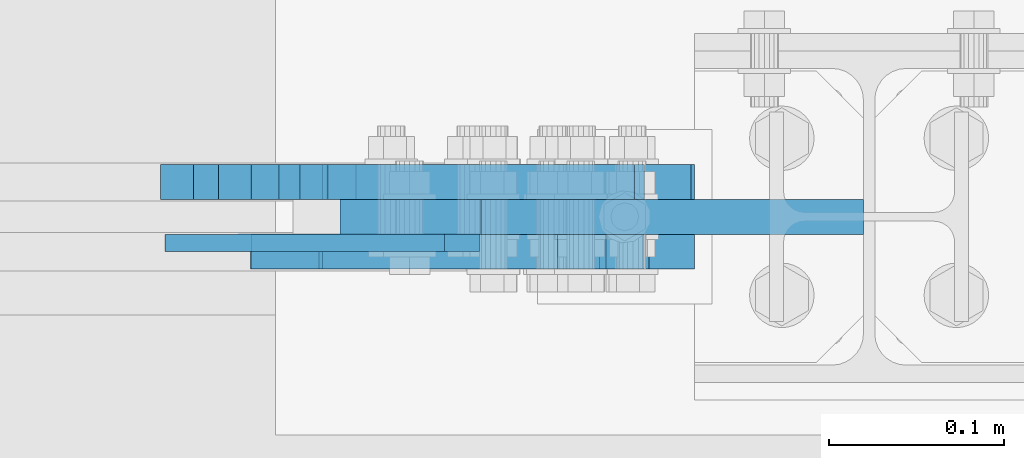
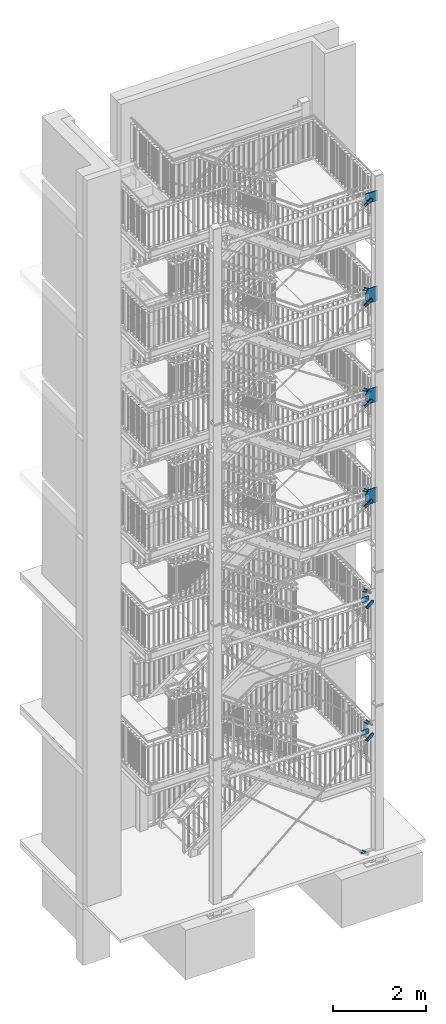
# One storey, part 200 of 831: 18 plates, 55 openings.
"""IFC2X3 building model written with IfcOpenShell, lengths in millimetres."""

from ifc_helpers import new_model, entity, si_unit, converted_unit, frame, frame_2d, origin, origin_with_axes, place, context, project, spatial, polyline, circle, outline, extrude, material, layer, layer_set, element, save


model = new_model("IFC2X3")

# Units and contexts
model_context = context("Model", 3, precision=1e-09, world=origin_with_axes())
ifc_project = project(units=[si_unit("LENGTHUNIT", "METRE", prefix="MILLI"), si_unit("AREAUNIT", "SQUARE_METRE"), si_unit("VOLUMEUNIT", "CUBIC_METRE"), converted_unit("PLANEANGLEUNIT", "DEGREE", entity("IfcPlaneAngleMeasure", 0.01745329), si_unit("PLANEANGLEUNIT", "RADIAN"), dimensions=[0, 0, 0, 0, 0, 0, 0])], contexts=[model_context])

# Site, building, storey
site_placement = place(None, origin_with_axes())
site = spatial("IfcSite", under=ifc_project, at=site_placement, Name="Site", CompositionType="ELEMENT")
building_placement = place(site_placement, origin_with_axes())
building = spatial("IfcBuilding", under=site, at=building_placement, Name="Struktur 1", CompositionType="ELEMENT")
storey_placement = place(building_placement, origin_with_axes())
storey = spatial("IfcBuildingStorey", under=building, at=storey_placement, Name="Default Storey", CompositionType="ELEMENT", Elevation=0.0)

# Plate, openings
ifc_material = material(Name="S235JR")
ifc_layer_1 = layer(ifc_material, 20.0)
ifc_layer_set_1 = layer_set([ifc_layer_1], Name="S235JR")
plate_1_placement = place(None, frame((8863.463402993, 4376.736971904, 9810.428402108), z_axis=(0.0, 1.0, 0.0), x_axis=(0.0, 0.0, -1.0)))
plate_1 = element("IfcPlate", 1, at=plate_1_placement, inside=storey, material=ifc_layer_set_1, Name="-", ObjectType="-", context=model_context, shape_type="SweptSolid", body=[
    extrude(outline(polyline([(0.0, 0.0), (386.856811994, 0.0), (386.856811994, 219.202103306), (263.428405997, 300.0), (123.428405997, 300.0), (0.0, 219.202103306), (0.0, 0.0)])), origin_with_axes(), (0.0, 0.0, -1.0), 20.0),
])
opening_1_placement = place(plate_1_placement, frame((193.428405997, 260.0, 0.5), z_axis=(0.0, 0.0, -1.0), x_axis=(0.0, -1.0, 0.0)))
element("IfcOpeningElement", 2, at=opening_1_placement, cuts=plate_1, ObjectType="Opening", context=model_context, shape_type="SweptSolid", body=[
    extrude(circle(Radius=9.001, at=frame_2d((0.0, 30.0), x_axis=(1.0, 0.0))), origin(), (0.0, 0.0, 1.0), 21.0),
])
opening_2_placement = place(plate_1_placement, frame((193.428405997, 260.0, 0.5), z_axis=(0.0, 0.0, -1.0), x_axis=(0.0, -1.0, 0.0)))
element("IfcOpeningElement", 3, at=opening_2_placement, cuts=plate_1, ObjectType="Opening", context=model_context, shape_type="SweptSolid", body=[
    extrude(circle(Radius=9.001, at=frame_2d((0.0, -30.0), x_axis=(1.0, 0.0))), origin(), (0.0, 0.0, 1.0), 21.0),
])
opening_3_placement = place(plate_1_placement, frame((57.434224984, 204.237470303, 0.5), z_axis=(0.0, 0.0, 1.0), x_axis=(1.0, 0.0, 0.0)))
element("IfcOpeningElement", 4, at=opening_3_placement, cuts=plate_1, ObjectType="Opening", context=model_context, shape_type="SweptSolid", body=[
    extrude(circle(Radius=9.001, at=frame_2d((-4.93237078, 7.529257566), x_axis=(1.0, 0.0))), origin(), (0.0, 0.0, -1.0), 21.0),
])
opening_4_placement = place(plate_1_placement, frame((90.313043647, 154.047996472, 0.5), z_axis=(0.0, 0.0, 1.0), x_axis=(1.0, 0.0, 0.0)))
element("IfcOpeningElement", 5, at=opening_4_placement, cuts=plate_1, ObjectType="Opening", context=model_context, shape_type="SweptSolid", body=[
    extrude(circle(Radius=9.001, at=frame_2d((-4.93237078, 7.529257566), x_axis=(1.0, 0.0))), origin(), (0.0, 0.0, -1.0), 21.0),
])
opening_5_placement = place(plate_1_placement, frame((318.119504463, 186.723899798, 0.5), z_axis=(0.0, 0.0, -1.0), x_axis=(0.548720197, 0.836006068, 0.0)))
element("IfcOpeningElement", 6, at=opening_5_placement, cuts=plate_1, ObjectType="Opening", context=model_context, shape_type="SweptSolid", body=[
    extrude(circle(Radius=9.001, at=frame_2d((30.0, 0.0), x_axis=(1.0, 0.0))), origin(), (0.0, 0.0, 1.0), 21.0),
])
opening_6_placement = place(plate_1_placement, frame((318.119504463, 186.723899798, 0.5), z_axis=(0.0, 0.0, -1.0), x_axis=(0.548720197, 0.836006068, 0.0)))
element("IfcOpeningElement", 7, at=opening_6_placement, cuts=plate_1, ObjectType="Opening", context=model_context, shape_type="SweptSolid", body=[
    extrude(circle(Radius=9.001, at=frame_2d((-30.0, 0.0), x_axis=(1.0, 0.0))), origin(), (0.0, 0.0, 1.0), 21.0),
])

plate_2_placement = place(None, frame((8863.463402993, 4376.736971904, 12437.428402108), z_axis=(0.0, 1.0, 0.0), x_axis=(0.0, 0.0, -1.0)))
plate_2 = element("IfcPlate", 8, at=plate_2_placement, inside=storey, material=ifc_layer_set_1, Name="-", ObjectType="-", context=model_context, shape_type="SweptSolid", body=[
    extrude(outline(polyline([(0.0, 0.0), (386.856811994, 0.0), (386.856811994, 219.202103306), (263.428405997, 300.0), (123.428405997, 300.0), (0.0, 219.202103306), (0.0, 0.0)])), origin_with_axes(), (0.0, 0.0, -1.0), 20.0),
])
opening_7_placement = place(plate_2_placement, frame((193.428405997, 260.000000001, 0.5), z_axis=(0.0, 0.0, -1.0), x_axis=(0.0, -1.0, 0.0)))
element("IfcOpeningElement", 9, at=opening_7_placement, cuts=plate_2, ObjectType="Opening", context=model_context, shape_type="SweptSolid", body=[
    extrude(circle(Radius=9.001, at=frame_2d((0.0, 30.0), x_axis=(1.0, 0.0))), origin(), (0.0, 0.0, 1.0), 21.0),
])
opening_8_placement = place(plate_2_placement, frame((193.428405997, 260.000000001, 0.5), z_axis=(0.0, 0.0, -1.0), x_axis=(0.0, -1.0, 0.0)))
element("IfcOpeningElement", 10, at=opening_8_placement, cuts=plate_2, ObjectType="Opening", context=model_context, shape_type="SweptSolid", body=[
    extrude(circle(Radius=9.001, at=frame_2d((0.0, -30.0), x_axis=(1.0, 0.0))), origin(), (0.0, 0.0, 1.0), 21.0),
])
opening_9_placement = place(plate_2_placement, frame((317.953682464, 186.832359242, 0.5), z_axis=(0.0, 0.0, -1.0), x_axis=(0.547991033, 0.836484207, 0.0)))
element("IfcOpeningElement", 11, at=opening_9_placement, cuts=plate_2, ObjectType="Opening", context=model_context, shape_type="SweptSolid", body=[
    extrude(circle(Radius=9.001, at=frame_2d((30.0, 0.0), x_axis=(1.0, 0.0))), origin(), (0.0, 0.0, 1.0), 21.0),
])
opening_10_placement = place(plate_2_placement, frame((317.953682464, 186.832359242, 0.5), z_axis=(0.0, 0.0, -1.0), x_axis=(0.547991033, 0.836484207, 0.0)))
element("IfcOpeningElement", 12, at=opening_10_placement, cuts=plate_2, ObjectType="Opening", context=model_context, shape_type="SweptSolid", body=[
    extrude(circle(Radius=9.001, at=frame_2d((-30.0, 0.0), x_axis=(1.0, 0.0))), origin(), (0.0, 0.0, 1.0), 21.0),
])
opening_11_placement = place(plate_2_placement, frame((57.191453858, 204.078340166, 0.5), z_axis=(0.0, 0.0, 1.0), x_axis=(1.0, 0.0, 0.0)))
element("IfcOpeningElement", 13, at=opening_11_placement, cuts=plate_2, ObjectType="Opening", context=model_context, shape_type="SweptSolid", body=[
    extrude(circle(Radius=9.001, at=frame_2d((-4.942962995, 7.522308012), x_axis=(1.0, 0.0))), origin(), (0.0, 0.0, -1.0), 21.0),
])
opening_12_placement = place(plate_2_placement, frame((90.140879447, 153.935191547, 0.5), z_axis=(0.0, 0.0, 1.0), x_axis=(1.0, 0.0, 0.0)))
element("IfcOpeningElement", 14, at=opening_12_placement, cuts=plate_2, ObjectType="Opening", context=model_context, shape_type="SweptSolid", body=[
    extrude(circle(Radius=9.001, at=frame_2d((-4.942962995, 7.522308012), x_axis=(1.0, 0.0))), origin(), (0.0, 0.0, -1.0), 21.0),
])

plate_3_placement = place(None, frame((8863.463402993, 4376.736971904, 15072.428402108), z_axis=(0.0, 1.0, 0.0), x_axis=(0.0, 0.0, -1.0)))
plate_3 = element("IfcPlate", 15, at=plate_3_placement, inside=storey, material=ifc_layer_set_1, Name="-", ObjectType="-", context=model_context, shape_type="SweptSolid", body=[
    extrude(outline(polyline([(0.0, 0.0), (386.856811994, 0.0), (386.856811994, 219.202103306), (263.428405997, 300.0), (123.428405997, 300.0), (0.0, 219.202103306), (0.0, 0.0)])), origin_with_axes(), (0.0, 0.0, -1.0), 20.0),
])
opening_13_placement = place(plate_3_placement, frame((193.428405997, 260.0, 0.5), z_axis=(0.0, 0.0, -1.0), x_axis=(0.0, -1.0, 0.0)))
element("IfcOpeningElement", 16, at=opening_13_placement, cuts=plate_3, ObjectType="Opening", context=model_context, shape_type="SweptSolid", body=[
    extrude(circle(Radius=9.001, at=frame_2d((0.0, 30.0), x_axis=(1.0, 0.0))), origin(), (0.0, 0.0, 1.0), 21.0),
])
opening_14_placement = place(plate_3_placement, frame((193.428405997, 260.0, 0.5), z_axis=(0.0, 0.0, -1.0), x_axis=(0.0, -1.0, 0.0)))
element("IfcOpeningElement", 17, at=opening_14_placement, cuts=plate_3, ObjectType="Opening", context=model_context, shape_type="SweptSolid", body=[
    extrude(circle(Radius=9.001, at=frame_2d((0.0, -30.0), x_axis=(1.0, 0.0))), origin(), (0.0, 0.0, 1.0), 21.0),
])
opening_15_placement = place(plate_3_placement, frame((318.218924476, 186.658910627, 0.5), z_axis=(0.0, 0.0, -1.0), x_axis=(0.549157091, 0.835719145, 0.0)))
element("IfcOpeningElement", 18, at=opening_15_placement, cuts=plate_3, ObjectType="Opening", context=model_context, shape_type="SweptSolid", body=[
    extrude(circle(Radius=9.001, at=frame_2d((30.0, 0.0), x_axis=(1.0, 0.0))), origin(), (0.0, 0.0, 1.0), 21.0),
])
opening_16_placement = place(plate_3_placement, frame((318.218924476, 186.658910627, 0.5), z_axis=(0.0, 0.0, -1.0), x_axis=(0.549157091, 0.835719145, 0.0)))
element("IfcOpeningElement", 19, at=opening_16_placement, cuts=plate_3, ObjectType="Opening", context=model_context, shape_type="SweptSolid", body=[
    extrude(circle(Radius=9.001, at=frame_2d((-30.0, 0.0), x_axis=(1.0, 0.0))), origin(), (0.0, 0.0, 1.0), 21.0),
])
opening_17_placement = place(plate_3_placement, frame((57.734427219, 204.434295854, 0.5), z_axis=(0.0, 0.0, 1.0), x_axis=(1.0, 0.0, 0.0)))
element("IfcOpeningElement", 20, at=opening_17_placement, cuts=plate_3, ObjectType="Opening", context=model_context, shape_type="SweptSolid", body=[
    extrude(circle(Radius=9.001, at=frame_2d((-4.9232598, 7.535218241), x_axis=(1.0, 0.0))), origin(), (0.0, 0.0, -1.0), 21.0),
])
opening_18_placement = place(plate_3_placement, frame((90.552512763, 154.205088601, 0.5), z_axis=(0.0, 0.0, 1.0), x_axis=(1.0, 0.0, 0.0)))
element("IfcOpeningElement", 21, at=opening_18_placement, cuts=plate_3, ObjectType="Opening", context=model_context, shape_type="SweptSolid", body=[
    extrude(circle(Radius=9.001, at=frame_2d((-4.9232598, 7.535218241), x_axis=(1.0, 0.0))), origin(), (0.0, 0.0, -1.0), 21.0),
])

plate_4_placement = place(None, frame((8563.463402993, 4376.736971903, 17582.999996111), z_axis=(0.0, 1.0, 0.0), x_axis=(1.0, 0.0, 0.0)))
plate_4 = element("IfcPlate", 22, at=plate_4_placement, inside=storey, material=ifc_layer_set_1, Name="-", ObjectType="-", context=model_context, shape_type="SweptSolid", body=[
    extrude(outline(polyline([(0.0, -110.000000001), (300.0, -110.000000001), (300.0, 277.428405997), (80.797896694, 277.428405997), (0.0, 154.0), (0.0, -110.000000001)])), origin_with_axes(), (0.0, 0.0, -1.0), 20.0),
])
opening_19_placement = place(plate_4_placement, frame((625.73494081, 10.002996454, 0.1), z_axis=(0.0, 0.0, 1.0), x_axis=(-1.0, 0.0, 0.0)))
element("IfcOpeningElement", 23, at=opening_19_placement, cuts=plate_4, ObjectType="Opening", context=model_context, shape_type="SweptSolid", body=[
    extrude(outline(polyline([(0.0, 0.0), (780.550880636, 0.0), (528.408784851, 348.845890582), (0.0, 0.0)])), origin(), (0.0, 0.0, -1.0), 20.2),
])
opening_20_placement = place(plate_4_placement, frame((40.0, 84.0, 0.5), z_axis=(0.0, 0.0, -1.0), x_axis=(1.0, 0.0, 0.0)))
element("IfcOpeningElement", 24, at=opening_20_placement, cuts=plate_4, ObjectType="Opening", context=model_context, shape_type="SweptSolid", body=[
    extrude(circle(Radius=9.001, at=frame_2d((0.0, 30.0), x_axis=(1.0, 0.0))), origin(), (0.0, 0.0, 1.0), 21.0),
])
opening_21_placement = place(plate_4_placement, frame((40.0, 84.0, 0.5), z_axis=(0.0, 0.0, -1.0), x_axis=(1.0, 0.0, 0.0)))
element("IfcOpeningElement", 25, at=opening_21_placement, cuts=plate_4, ObjectType="Opening", context=model_context, shape_type="SweptSolid", body=[
    extrude(circle(Radius=9.001, at=frame_2d((0.0, -30.0), x_axis=(1.0, 0.0))), origin(), (0.0, 0.0, 1.0), 21.0),
])
opening_22_placement = place(plate_4_placement, frame((113.015549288, 208.292833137, 0.5), z_axis=(0.0, 0.0, -1.0), x_axis=(-0.837153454, 0.546968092, 0.0)))
element("IfcOpeningElement", 26, at=opening_22_placement, cuts=plate_4, ObjectType="Opening", context=model_context, shape_type="SweptSolid", body=[
    extrude(circle(Radius=9.001, at=frame_2d((30.0, 0.0), x_axis=(1.0, 0.0))), origin(), (0.0, 0.0, 1.0), 21.0),
])
opening_23_placement = place(plate_4_placement, frame((113.015549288, 208.292833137, 0.5), z_axis=(0.0, 0.0, -1.0), x_axis=(-0.837153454, 0.546968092, 0.0)))
element("IfcOpeningElement", 27, at=opening_23_placement, cuts=plate_4, ObjectType="Opening", context=model_context, shape_type="SweptSolid", body=[
    extrude(circle(Radius=9.001, at=frame_2d((-30.0, 0.0), x_axis=(1.0, 0.0))), origin(), (0.0, 0.0, 1.0), 21.0),
])

plate_5_placement = place(None, frame((8584.803726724, 4356.736971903, 3254.804237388), z_axis=(0.0, -1.0, 0.0), x_axis=(0.652408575, 0.0, -0.757867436)))
plate_5 = element("IfcPlate", 28, at=plate_5_placement, inside=storey, material=ifc_layer_set_1, Name="-", ObjectType="-", context=model_context, shape_type="SweptSolid", body=[
    extrude(outline(polyline([(0.0, 0.0), (29.0, 0.0), (29.0, 210.0), (9.0, 230.0), (-31.0, 230.0), (-51.0, 210.0), (-51.0, 0.0), (-22.0, 0.0), (-22.0, 80.0), (0.0, 80.0), (0.0, 0.0)])), origin_with_axes(), (0.0, 0.0, 1.0), 20.0),
])
opening_24_placement = place(plate_5_placement, frame((-11.000000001, 170.0, -0.5), z_axis=(0.0, 0.0, 1.0), x_axis=(0.0, -1.0, 0.0)))
element("IfcOpeningElement", 29, at=opening_24_placement, cuts=plate_5, ObjectType="Opening", context=model_context, shape_type="SweptSolid", body=[
    extrude(circle(Radius=9.001, at=frame_2d((30.0, 0.0), x_axis=(1.0, 0.0))), origin(), (0.0, 0.0, 1.0), 21.0),
])
opening_25_placement = place(plate_5_placement, frame((-11.000000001, 170.0, -0.5), z_axis=(0.0, 0.0, 1.0), x_axis=(0.0, -1.0, 0.0)))
element("IfcOpeningElement", 30, at=opening_25_placement, cuts=plate_5, ObjectType="Opening", context=model_context, shape_type="SweptSolid", body=[
    extrude(circle(Radius=9.001, at=frame_2d((-30.0, 0.0), x_axis=(1.0, 0.0))), origin(), (0.0, 0.0, 1.0), 21.0),
])

plate_6_placement = place(None, frame((8540.654393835, 4356.736971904, 9389.83039741), z_axis=(0.0, -1.0, 0.0), x_axis=(0.548720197, 0.0, -0.836006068)))
plate_6 = element("IfcPlate", 31, at=plate_6_placement, inside=storey, material=ifc_layer_set_1, Name="-", ObjectType="-", context=model_context, shape_type="SweptSolid", body=[
    extrude(outline(polyline([(0.0, 0.0), (29.0, 0.0), (29.0, 210.0), (9.0, 230.0), (-31.0, 230.0), (-51.0, 210.0), (-51.0, 0.0), (-22.0, 0.0), (-22.0, 80.0), (0.0, 80.0), (0.0, 0.0)])), origin_with_axes(), (0.0, 0.0, 1.0), 20.0),
])
opening_26_placement = place(plate_6_placement, frame((-11.0, 170.0, -0.5), z_axis=(0.0, 0.0, 1.0), x_axis=(0.0, -1.0, 0.0)))
element("IfcOpeningElement", 32, at=opening_26_placement, cuts=plate_6, ObjectType="Opening", context=model_context, shape_type="SweptSolid", body=[
    extrude(circle(Radius=9.001, at=frame_2d((30.0, 0.0), x_axis=(1.0, 0.0))), origin(), (0.0, 0.0, 1.0), 21.0),
])
opening_27_placement = place(plate_6_placement, frame((-11.0, 170.0, -0.5), z_axis=(0.0, 0.0, 1.0), x_axis=(0.0, -1.0, 0.0)))
element("IfcOpeningElement", 33, at=opening_27_placement, cuts=plate_6, ObjectType="Opening", context=model_context, shape_type="SweptSolid", body=[
    extrude(circle(Radius=9.001, at=frame_2d((-30.0, 0.0), x_axis=(1.0, 0.0))), origin(), (0.0, 0.0, 1.0), 21.0),
])

plate_7_placement = place(None, frame((8586.91061946, 4356.736971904, 6728.115001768), z_axis=(0.0, -1.0, 0.0), x_axis=(0.654679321, 0.0, -0.755906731)))
plate_7 = element("IfcPlate", 34, at=plate_7_placement, inside=storey, material=ifc_layer_set_1, Name="-", ObjectType="-", context=model_context, shape_type="SweptSolid", body=[
    extrude(outline(polyline([(0.0, 0.0), (29.0, 0.0), (29.0, 210.0), (9.0, 230.0), (-31.0, 230.0), (-51.0, 210.0), (-51.0, 0.0), (-22.0, 0.0), (-22.0, 80.0), (0.0, 80.0), (0.0, 0.0)])), origin_with_axes(), (0.0, 0.0, 1.0), 20.0),
])
opening_28_placement = place(plate_7_placement, frame((-11.0, 170.0, -0.5), z_axis=(0.0, 0.0, 1.0), x_axis=(0.0, -1.0, 0.0)))
element("IfcOpeningElement", 35, at=opening_28_placement, cuts=plate_7, ObjectType="Opening", context=model_context, shape_type="SweptSolid", body=[
    extrude(circle(Radius=9.001, at=frame_2d((30.0, 0.0), x_axis=(1.0, 0.0))), origin(), (0.0, 0.0, 1.0), 21.0),
])
opening_29_placement = place(plate_7_placement, frame((-11.0, 170.0, -0.5), z_axis=(0.0, 0.0, 1.0), x_axis=(0.0, -1.0, 0.0)))
element("IfcOpeningElement", 36, at=opening_29_placement, cuts=plate_7, ObjectType="Opening", context=model_context, shape_type="SweptSolid", body=[
    extrude(circle(Radius=9.001, at=frame_2d((-30.0, 0.0), x_axis=(1.0, 0.0))), origin(), (0.0, 0.0, 1.0), 21.0),
])

plate_8_placement = place(None, frame((8494.057714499, 4396.736971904, 395.314271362), z_axis=(0.0, 1.0, 0.0), x_axis=(0.652408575, 0.0, 0.757867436)))
plate_8 = element("IfcPlate", 37, at=plate_8_placement, inside=storey, material=ifc_layer_set_1, Name="-", ObjectType="-", context=model_context, shape_type="SweptSolid", body=[
    extrude(outline(polyline([(0.0, 0.0), (29.0, 0.0), (29.0, 210.0), (9.0, 230.0), (-31.0, 230.0), (-51.0, 210.0), (-51.0, 0.0), (-22.0, 0.0), (-22.0, 80.0), (0.0, 80.0), (0.0, 0.0)])), origin_with_axes(), (0.0, 0.0, -1.0), 20.0),
])
opening_30_placement = place(plate_8_placement, frame((-11.000000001, 149.001, 0.5), z_axis=(0.0, 0.0, 1.0), x_axis=(1.0, 0.0, 0.0)))
element("IfcOpeningElement", 38, at=opening_30_placement, cuts=plate_8, ObjectType="Opening", context=model_context, shape_type="SweptSolid", body=[
    extrude(circle(Radius=9.001, at=frame_2d((0.0, -9.001), x_axis=(1.0, 0.0))), origin(), (0.0, 0.0, -1.0), 21.0),
])
opening_31_placement = place(plate_8_placement, frame((-11.000000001, 209.001, 0.5), z_axis=(0.0, 0.0, 1.0), x_axis=(1.0, 0.0, 0.0)))
element("IfcOpeningElement", 39, at=opening_31_placement, cuts=plate_8, ObjectType="Opening", context=model_context, shape_type="SweptSolid", body=[
    extrude(circle(Radius=9.001, at=frame_2d((0.0, -9.001), x_axis=(1.0, 0.0))), origin(), (0.0, 0.0, -1.0), 21.0),
])

plate_9_placement = place(None, frame((8587.050661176, 4396.736971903, 3768.76370292), z_axis=(0.0, 1.0, 0.0), x_axis=(0.654679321, 0.0, 0.755906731)))
plate_9 = element("IfcPlate", 40, at=plate_9_placement, inside=storey, material=ifc_layer_set_1, Name="-", ObjectType="-", context=model_context, shape_type="SweptSolid", body=[
    extrude(outline(polyline([(0.0, 0.0), (29.0, 0.0), (29.0, 210.0), (9.0, 230.0), (-31.0, 230.0), (-51.0, 210.0), (-51.0, 0.0), (-22.0, 0.0), (-22.0, 80.0), (0.0, 80.0), (0.0, 0.0)])), origin_with_axes(), (0.0, 0.0, -1.0), 20.0),
])
opening_32_placement = place(plate_9_placement, frame((-11.0, 149.001, 0.5), z_axis=(0.0, 0.0, 1.0), x_axis=(1.0, 0.0, 0.0)))
element("IfcOpeningElement", 41, at=opening_32_placement, cuts=plate_9, ObjectType="Opening", context=model_context, shape_type="SweptSolid", body=[
    extrude(circle(Radius=9.001, at=frame_2d((0.0, -9.001), x_axis=(1.0, 0.0))), origin(), (0.0, 0.0, -1.0), 21.0),
])
opening_33_placement = place(plate_9_placement, frame((-11.0, 209.001, 0.5), z_axis=(0.0, 0.0, 1.0), x_axis=(1.0, 0.0, 0.0)))
element("IfcOpeningElement", 42, at=opening_33_placement, cuts=plate_9, ObjectType="Opening", context=model_context, shape_type="SweptSolid", body=[
    extrude(circle(Radius=9.001, at=frame_2d((0.0, -9.001), x_axis=(1.0, 0.0))), origin(), (0.0, 0.0, -1.0), 21.0),
])

plate_10_placement = place(None, frame((8540.784171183, 4396.736971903, 7212.084413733), z_axis=(0.0, 1.0, 0.0), x_axis=(0.548720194, 0.0, 0.83600607)))
plate_10 = element("IfcPlate", 43, at=plate_10_placement, inside=storey, material=ifc_layer_set_1, Name="-", ObjectType="-", context=model_context, shape_type="SweptSolid", body=[
    extrude(outline(polyline([(0.0, 0.0), (29.0, 0.0), (29.0, 210.0), (9.0, 230.0), (-31.0, 230.0), (-51.0, 210.0), (-51.0, 0.0), (-22.0, 0.0), (-22.0, 80.0), (0.0, 80.0), (0.0, 0.0)])), origin_with_axes(), (0.0, 0.0, -1.0), 20.0),
])
opening_34_placement = place(plate_10_placement, frame((-11.0, 149.001, 0.5), z_axis=(0.0, 0.0, 1.0), x_axis=(1.0, 0.0, 0.0)))
element("IfcOpeningElement", 44, at=opening_34_placement, cuts=plate_10, ObjectType="Opening", context=model_context, shape_type="SweptSolid", body=[
    extrude(circle(Radius=9.001, at=frame_2d((0.0, -9.001), x_axis=(1.0, 0.0))), origin(), (0.0, 0.0, -1.0), 21.0),
])
opening_35_placement = place(plate_10_placement, frame((-10.999999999, 209.001, 0.5), z_axis=(0.0, 0.0, 1.0), x_axis=(1.0, 0.0, 0.0)))
element("IfcOpeningElement", 45, at=opening_35_placement, cuts=plate_10, ObjectType="Opening", context=model_context, shape_type="SweptSolid", body=[
    extrude(circle(Radius=9.001, at=frame_2d((0.0, -9.001), x_axis=(1.0, 0.0))), origin(), (0.0, 0.0, -1.0), 21.0),
])

plate_11_placement = place(None, frame((8540.456629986, 4356.736971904, 12017.11491779), z_axis=(0.0, -1.0, 0.0), x_axis=(0.547991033, 0.0, -0.836484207)))
plate_11 = element("IfcPlate", 46, at=plate_11_placement, inside=storey, material=ifc_layer_set_1, Name="-", ObjectType="-", context=model_context, shape_type="SweptSolid", body=[
    extrude(outline(polyline([(0.0, 0.0), (29.0, 0.0), (29.0, 210.0), (9.0, 230.0), (-31.0, 230.0), (-51.0, 210.0), (-51.0, 0.0), (-22.0, 0.0), (-22.0, 80.0), (0.0, 80.0), (0.0, 0.0)])), origin_with_axes(), (0.0, 0.0, 1.0), 20.0),
])
opening_36_placement = place(plate_11_placement, frame((-11.0, 170.0, -0.5), z_axis=(0.0, 0.0, 1.0), x_axis=(0.0, -1.0, 0.0)))
element("IfcOpeningElement", 47, at=opening_36_placement, cuts=plate_11, ObjectType="Opening", context=model_context, shape_type="SweptSolid", body=[
    extrude(circle(Radius=9.001, at=frame_2d((30.0, 0.0), x_axis=(1.0, 0.0))), origin(), (0.0, 0.0, 1.0), 21.0),
])
opening_37_placement = place(plate_11_placement, frame((-11.0, 170.0, -0.5), z_axis=(0.0, 0.0, 1.0), x_axis=(0.0, -1.0, 0.0)))
element("IfcOpeningElement", 48, at=opening_37_placement, cuts=plate_11, ObjectType="Opening", context=model_context, shape_type="SweptSolid", body=[
    extrude(circle(Radius=9.001, at=frame_2d((-30.0, 0.0), x_axis=(1.0, 0.0))), origin(), (0.0, 0.0, 1.0), 21.0),
])

plate_12_placement = place(None, frame((8540.615686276, 4396.736971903, 9843.845194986), z_axis=(0.0, 1.0, 0.0), x_axis=(0.547980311, 0.0, 0.836491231)))
plate_12 = element("IfcPlate", 49, at=plate_12_placement, inside=storey, material=ifc_layer_set_1, Name="-", ObjectType="-", context=model_context, shape_type="SweptSolid", body=[
    extrude(outline(polyline([(0.0, 0.0), (29.0, 0.0), (29.0, 210.0), (9.0, 230.0), (-31.0, 230.0), (-51.0, 210.0), (-51.0, 0.0), (-22.0, 0.0), (-22.0, 80.0), (0.0, 80.0), (0.0, 0.0)])), origin_with_axes(), (0.0, 0.0, -1.0), 20.0),
])
opening_38_placement = place(plate_12_placement, frame((-11.000000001, 149.001, 0.5), z_axis=(0.0, 0.0, 1.0), x_axis=(1.0, 0.0, 0.0)))
element("IfcOpeningElement", 50, at=opening_38_placement, cuts=plate_12, ObjectType="Opening", context=model_context, shape_type="SweptSolid", body=[
    extrude(circle(Radius=9.001, at=frame_2d((0.0, -9.001), x_axis=(1.0, 0.0))), origin(), (0.0, 0.0, -1.0), 21.0),
])
opening_39_placement = place(plate_12_placement, frame((-11.000000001, 209.001, 0.5), z_axis=(0.0, 0.0, 1.0), x_axis=(1.0, 0.0, 0.0)))
element("IfcOpeningElement", 51, at=opening_39_placement, cuts=plate_12, ObjectType="Opening", context=model_context, shape_type="SweptSolid", body=[
    extrude(circle(Radius=9.001, at=frame_2d((0.0, -9.001), x_axis=(1.0, 0.0))), origin(), (0.0, 0.0, -1.0), 21.0),
])

plate_13_placement = place(None, frame((8540.77296569, 4356.736971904, 14651.659861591), z_axis=(0.0, -1.0, 0.0), x_axis=(0.549157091, 0.0, -0.835719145)))
plate_13 = element("IfcPlate", 52, at=plate_13_placement, inside=storey, material=ifc_layer_set_1, Name="-", ObjectType="-", context=model_context, shape_type="SweptSolid", body=[
    extrude(outline(polyline([(0.0, 0.0), (29.0, 0.0), (29.0, 210.0), (9.0, 230.0), (-31.0, 230.0), (-51.0, 210.0), (-51.0, 0.0), (-22.0, 0.0), (-22.0, 80.0), (0.0, 80.0), (0.0, 0.0)])), origin_with_axes(), (0.0, 0.0, 1.0), 20.0),
])
opening_40_placement = place(plate_13_placement, frame((-11.0, 170.0, -0.5), z_axis=(0.0, 0.0, 1.0), x_axis=(0.0, -1.0, 0.0)))
element("IfcOpeningElement", 53, at=opening_40_placement, cuts=plate_13, ObjectType="Opening", context=model_context, shape_type="SweptSolid", body=[
    extrude(circle(Radius=9.001, at=frame_2d((30.0, 0.0), x_axis=(1.0, 0.0))), origin(), (0.0, 0.0, 1.0), 21.0),
])
opening_41_placement = place(plate_13_placement, frame((-11.0, 170.0, -0.5), z_axis=(0.0, 0.0, 1.0), x_axis=(0.0, -1.0, 0.0)))
element("IfcOpeningElement", 54, at=opening_41_placement, cuts=plate_13, ObjectType="Opening", context=model_context, shape_type="SweptSolid", body=[
    extrude(circle(Radius=9.001, at=frame_2d((-30.0, 0.0), x_axis=(1.0, 0.0))), origin(), (0.0, 0.0, 1.0), 21.0),
])

plate_14_placement = place(None, frame((8540.90280273, 4396.736971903, 12471.254814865), z_axis=(0.0, 1.0, 0.0), x_axis=(0.549157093, 0.0, 0.835719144)))
plate_14 = element("IfcPlate", 55, at=plate_14_placement, inside=storey, material=ifc_layer_set_1, Name="-", ObjectType="-", context=model_context, shape_type="SweptSolid", body=[
    extrude(outline(polyline([(0.0, 0.0), (29.0, 0.0), (29.0, 210.0), (9.0, 230.0), (-31.0, 230.0), (-51.0, 210.0), (-51.0, 0.0), (-22.0, 0.0), (-22.0, 80.0), (0.0, 80.0), (0.0, 0.0)])), origin_with_axes(), (0.0, 0.0, -1.0), 20.0),
])
opening_42_placement = place(plate_14_placement, frame((-11.0, 149.001, 0.5), z_axis=(0.0, 0.0, 1.0), x_axis=(1.0, 0.0, 0.0)))
element("IfcOpeningElement", 56, at=opening_42_placement, cuts=plate_14, ObjectType="Opening", context=model_context, shape_type="SweptSolid", body=[
    extrude(circle(Radius=9.001, at=frame_2d((0.0, -9.001), x_axis=(1.0, 0.0))), origin(), (0.0, 0.0, -1.0), 21.0),
])
opening_43_placement = place(plate_14_placement, frame((-11.0, 209.001, 0.5), z_axis=(0.0, 0.0, 1.0), x_axis=(1.0, 0.0, 0.0)))
element("IfcOpeningElement", 57, at=opening_43_placement, cuts=plate_14, ObjectType="Opening", context=model_context, shape_type="SweptSolid", body=[
    extrude(circle(Radius=9.001, at=frame_2d((0.0, -9.001), x_axis=(1.0, 0.0))), origin(), (0.0, 0.0, -1.0), 21.0),
])

plate_15_placement = place(None, frame((8540.17951408, 4356.736971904, 17272.513899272), z_axis=(0.0, -1.0, 0.0), x_axis=(0.546968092, 0.0, -0.837153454)))
plate_15 = element("IfcPlate", 58, at=plate_15_placement, inside=storey, material=ifc_layer_set_1, Name="-", ObjectType="-", context=model_context, shape_type="SweptSolid", body=[
    extrude(outline(polyline([(0.0, 0.0), (29.0, 0.0), (29.0, 210.0), (9.0, 230.0), (-31.0, 230.0), (-51.0, 210.0), (-51.0, 0.0), (-22.0, 0.0), (-22.0, 80.0), (0.0, 80.0), (0.0, 0.0)])), origin_with_axes(), (0.0, 0.0, 1.0), 20.0),
])
opening_44_placement = place(plate_15_placement, frame((-11.0, 170.0, -0.5), z_axis=(0.0, 0.0, 1.0), x_axis=(0.0, -1.0, 0.0)))
element("IfcOpeningElement", 59, at=opening_44_placement, cuts=plate_15, ObjectType="Opening", context=model_context, shape_type="SweptSolid", body=[
    extrude(circle(Radius=9.001, at=frame_2d((30.0, 0.0), x_axis=(1.0, 0.0))), origin(), (0.0, 0.0, 1.0), 21.0),
])
opening_45_placement = place(plate_15_placement, frame((-11.0, 170.0, -0.5), z_axis=(0.0, 0.0, 1.0), x_axis=(0.0, -1.0, 0.0)))
element("IfcOpeningElement", 60, at=opening_45_placement, cuts=plate_15, ObjectType="Opening", context=model_context, shape_type="SweptSolid", body=[
    extrude(circle(Radius=9.001, at=frame_2d((-30.0, 0.0), x_axis=(1.0, 0.0))), origin(), (0.0, 0.0, 1.0), 21.0),
])

plate_16_placement = place(None, frame((8540.309054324, 4396.736971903, 15105.40145562), z_axis=(0.0, 1.0, 0.0), x_axis=(0.546968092, 0.0, 0.837153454)))
plate_16 = element("IfcPlate", 61, at=plate_16_placement, inside=storey, material=ifc_layer_set_1, Name="-", ObjectType="-", context=model_context, shape_type="SweptSolid", body=[
    extrude(outline(polyline([(0.0, 0.0), (29.0, 0.0), (29.0, 210.0), (9.0, 230.0), (-31.0, 230.0), (-51.0, 210.0), (-51.0, 0.0), (-22.0, 0.0), (-22.0, 80.0), (0.0, 80.0), (0.0, 0.0)])), origin_with_axes(), (0.0, 0.0, -1.0), 20.0),
])
opening_46_placement = place(plate_16_placement, frame((-11.0, 149.001, 0.5), z_axis=(0.0, 0.0, 1.0), x_axis=(1.0, 0.0, 0.0)))
element("IfcOpeningElement", 62, at=opening_46_placement, cuts=plate_16, ObjectType="Opening", context=model_context, shape_type="SweptSolid", body=[
    extrude(circle(Radius=9.001, at=frame_2d((0.0, -9.001), x_axis=(1.0, 0.0))), origin(), (0.0, 0.0, -1.0), 21.0),
])
opening_47_placement = place(plate_16_placement, frame((-11.0, 209.001, 0.5), z_axis=(0.0, 0.0, 1.0), x_axis=(1.0, 0.0, 0.0)))
element("IfcOpeningElement", 63, at=opening_47_placement, cuts=plate_16, ObjectType="Opening", context=model_context, shape_type="SweptSolid", body=[
    extrude(circle(Radius=9.001, at=frame_2d((0.0, -9.001), x_axis=(1.0, 0.0))), origin(), (0.0, 0.0, -1.0), 21.0),
])

ifc_layer_2 = layer(ifc_material, 10.0)
ifc_layer_set_2 = layer_set([ifc_layer_2], Name="S235JR")
plate_17_placement = place(None, frame((8553.463402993, 4356.736971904, 6984.999996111), z_axis=(0.0, -1.0, 0.0), x_axis=(1.0, 0.0, 0.0)))
plate_17 = element("IfcPlate", 64, at=plate_17_placement, inside=storey, material=ifc_layer_set_2, Name="-", ObjectType="-", context=model_context, shape_type="SweptSolid", body=[
    extrude(outline(polyline([(-90.0, -70.0), (90.0, -70.0), (90.0, 70.0), (-90.0, 70.0), (-90.0, -70.0)])), origin_with_axes(), (0.0, 0.0, 1.0), 10.0),
])
opening_48_placement = place(plate_17_placement, frame((0.0, 0.0, -0.01), z_axis=(0.0, 0.0, 1.0), x_axis=(1.0, 0.0, 0.0)))
element("IfcOpeningElement", 65, at=opening_48_placement, cuts=plate_17, ObjectType="Opening", context=model_context, shape_type="SweptSolid", body=[
    extrude(outline(polyline([(90.0, -70.0), (90.0, -50.0), (70.0, -70.0), (90.0, -70.0)])), origin(), (0.0, 0.0, 1.0), 10.02),
])
opening_49_placement = place(plate_17_placement, frame((0.0, 0.0, -0.01), z_axis=(0.0, 0.0, 1.0), x_axis=(1.0, 0.0, 0.0)))
element("IfcOpeningElement", 66, at=opening_49_placement, cuts=plate_17, ObjectType="Opening", context=model_context, shape_type="SweptSolid", body=[
    extrude(outline(polyline([(90.0, 70.0), (70.0, 70.0), (90.0, 50.0), (90.0, 70.0)])), origin(), (0.0, 0.0, 1.0), 10.02),
])
opening_50_placement = place(plate_17_placement, frame((50.0, 0.0, -0.5), z_axis=(0.0, 0.0, 1.0), x_axis=(1.0, 0.0, 0.0)))
element("IfcOpeningElement", 67, at=opening_50_placement, cuts=plate_17, ObjectType="Opening", context=model_context, shape_type="SweptSolid", body=[
    extrude(circle(Radius=9.001, at=frame_2d((0.0, 30.0), x_axis=(1.0, 0.0))), origin(), (0.0, 0.0, 1.0), 11.0),
])
opening_51_placement = place(plate_17_placement, frame((50.0, 0.0, -0.5), z_axis=(0.0, 0.0, 1.0), x_axis=(1.0, 0.0, 0.0)))
element("IfcOpeningElement", 68, at=opening_51_placement, cuts=plate_17, ObjectType="Opening", context=model_context, shape_type="SweptSolid", body=[
    extrude(circle(Radius=9.001, at=frame_2d((0.0, -30.0), x_axis=(1.0, 0.0))), origin(), (0.0, 0.0, 1.0), 11.0),
])

plate_18_placement = place(None, frame((8553.463402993, 4356.736971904, 3511.999996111), z_axis=(0.0, -1.0, 0.0), x_axis=(1.0, 0.0, 0.0)))
plate_18 = element("IfcPlate", 69, at=plate_18_placement, inside=storey, material=ifc_layer_set_2, Name="-", ObjectType="-", context=model_context, shape_type="SweptSolid", body=[
    extrude(outline(polyline([(-90.0, -70.0), (90.0, -70.0), (90.0, 70.0), (-90.0, 70.0), (-90.0, -70.0)])), origin_with_axes(), (0.0, 0.0, 1.0), 10.0),
])
opening_52_placement = place(plate_18_placement, frame((0.0, 0.0, -0.01), z_axis=(0.0, 0.0, 1.0), x_axis=(1.0, 0.0, 0.0)))
element("IfcOpeningElement", 70, at=opening_52_placement, cuts=plate_18, ObjectType="Opening", context=model_context, shape_type="SweptSolid", body=[
    extrude(outline(polyline([(90.0, -70.0), (90.0, -50.0), (70.0, -70.0), (90.0, -70.0)])), origin(), (0.0, 0.0, 1.0), 10.02),
])
opening_53_placement = place(plate_18_placement, frame((0.0, 0.0, -0.01), z_axis=(0.0, 0.0, 1.0), x_axis=(1.0, 0.0, 0.0)))
element("IfcOpeningElement", 71, at=opening_53_placement, cuts=plate_18, ObjectType="Opening", context=model_context, shape_type="SweptSolid", body=[
    extrude(outline(polyline([(90.0, 70.0), (70.0, 70.0), (90.0, 50.0), (90.0, 70.0)])), origin(), (0.0, 0.0, 1.0), 10.02),
])
opening_54_placement = place(plate_18_placement, frame((50.0, 0.0, -0.5), z_axis=(0.0, 0.0, 1.0), x_axis=(1.0, 0.0, 0.0)))
element("IfcOpeningElement", 72, at=opening_54_placement, cuts=plate_18, ObjectType="Opening", context=model_context, shape_type="SweptSolid", body=[
    extrude(circle(Radius=9.001, at=frame_2d((0.0, 30.0), x_axis=(1.0, 0.0))), origin(), (0.0, 0.0, 1.0), 11.0),
])
opening_55_placement = place(plate_18_placement, frame((50.0, 0.0, -0.5), z_axis=(0.0, 0.0, 1.0), x_axis=(1.0, 0.0, 0.0)))
element("IfcOpeningElement", 73, at=opening_55_placement, cuts=plate_18, ObjectType="Opening", context=model_context, shape_type="SweptSolid", body=[
    extrude(circle(Radius=9.001, at=frame_2d((0.0, -30.0), x_axis=(1.0, 0.0))), origin(), (0.0, 0.0, 1.0), 11.0),
])

save(model, "model.ifc")
